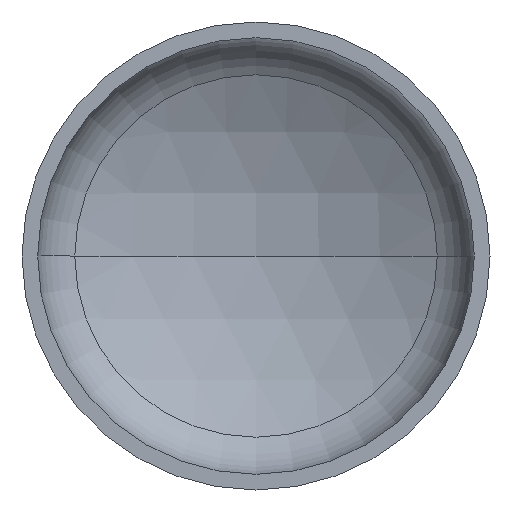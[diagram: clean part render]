
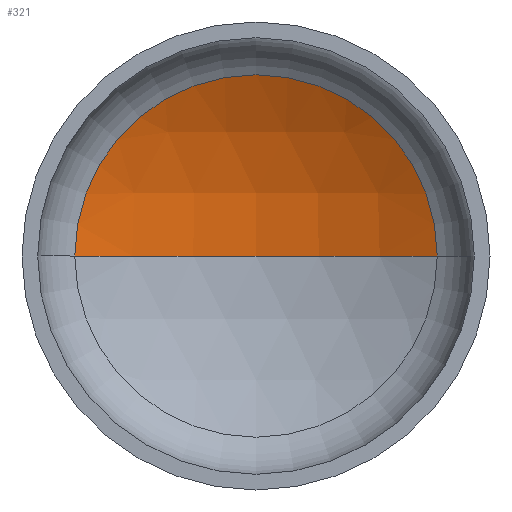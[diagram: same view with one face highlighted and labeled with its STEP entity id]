
A CAD part, front view. The second image highlights one B-rep face of the part: STEP entity #321.
In plain terms, the highlighted spherical face has radius 1120 mm.
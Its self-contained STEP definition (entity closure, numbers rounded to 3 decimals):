
#4 = AXIS2_PLACEMENT_3D ( 'NONE', #275, #326, #170 ) ;
#22 = AXIS2_PLACEMENT_3D ( 'NONE', #133, #254, #52 ) ;
#25 = AXIS2_PLACEMENT_3D ( 'NONE', #255, #59, #278 ) ;
#27 = AXIS2_PLACEMENT_3D ( 'NONE', #32, #248, #371 ) ;
#32 = CARTESIAN_POINT ( 'NONE',  ( 0., 338.142, 0. ) ) ;
#35 = VERTEX_POINT ( 'NONE', #89 ) ;
#52 = DIRECTION ( 'NONE',  ( 1., 0., 0. ) ) ;
#59 = DIRECTION ( 'NONE',  ( 0., 0., -1. ) ) ;
#63 = EDGE_CURVE ( 'NONE', #217, #35, #309, .T. ) ;
#65 = EDGE_CURVE ( 'NONE', #107, #217, #243, .T. ) ;
#75 = EDGE_CURVE ( 'NONE', #107, #35, #166, .T. ) ;
#89 = CARTESIAN_POINT ( 'NONE',  ( -542.055, 338.142, 0. ) ) ;
#107 = VERTEX_POINT ( 'NONE', #377 ) ;
#124 = SPHERICAL_SURFACE ( 'NONE', #4, 1120. ) ;
#133 = CARTESIAN_POINT ( 'NONE',  ( 0., -641.948, 0. ) ) ;
#150 = ORIENTED_EDGE ( 'NONE', *, *, #63, .T. ) ;
#166 = CIRCLE ( 'NONE', #22, 1120. ) ;
#170 = DIRECTION ( 'NONE',  ( -1., 0., 0. ) ) ;
#179 = ORIENTED_EDGE ( 'NONE', *, *, #75, .F. ) ;
#201 = EDGE_LOOP ( 'NONE', ( #179, #216, #150 ) ) ;
#216 = ORIENTED_EDGE ( 'NONE', *, *, #65, .T. ) ;
#217 = VERTEX_POINT ( 'NONE', #296 ) ;
#243 = CIRCLE ( 'NONE', #25, 1120. ) ;
#248 = DIRECTION ( 'NONE',  ( 0., -1., 0. ) ) ;
#254 = DIRECTION ( 'NONE',  ( 0., 0., 1. ) ) ;
#255 = CARTESIAN_POINT ( 'NONE',  ( 0., -641.948, 0. ) ) ;
#268 = FACE_OUTER_BOUND ( 'NONE', #201, .T. ) ;
#275 = CARTESIAN_POINT ( 'NONE',  ( 0., -641.948, 0. ) ) ;
#278 = DIRECTION ( 'NONE',  ( -1., 0., 0. ) ) ;
#296 = CARTESIAN_POINT ( 'NONE',  ( 542.055, 338.142, 0. ) ) ;
#309 = CIRCLE ( 'NONE', #27, 542.055 ) ;
#321 = ADVANCED_FACE ( 'NONE', ( #268 ), #124, .F. ) ;
#326 = DIRECTION ( 'NONE',  ( 0., 0., -1. ) ) ;
#371 = DIRECTION ( 'NONE',  ( 1., 0., 0. ) ) ;
#377 = CARTESIAN_POINT ( 'NONE',  ( 0., 478.052, 0. ) ) ;
